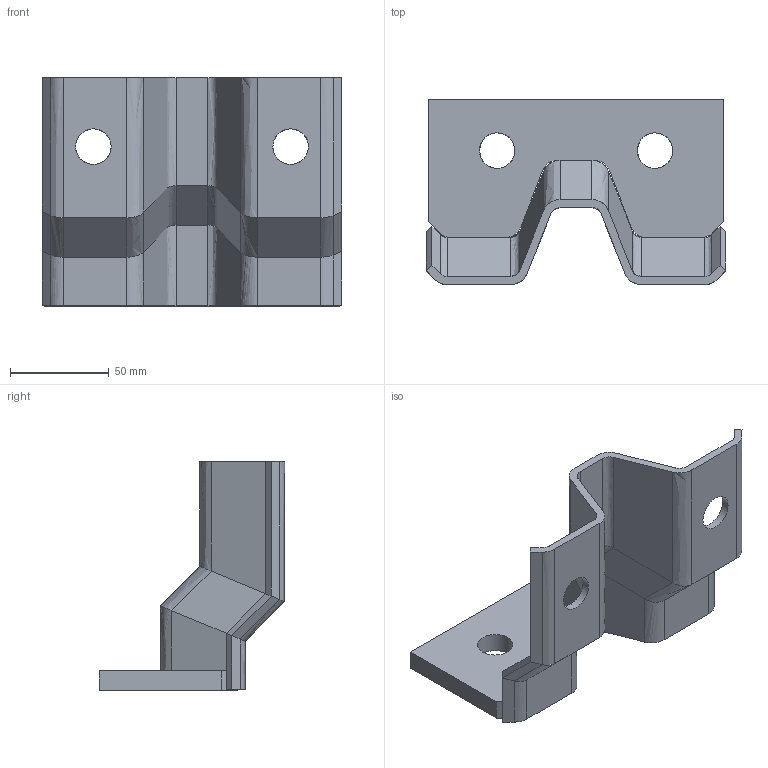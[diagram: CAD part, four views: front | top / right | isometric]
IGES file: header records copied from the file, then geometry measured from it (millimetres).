
Global section: file name: B150W80; native system: Autodesk RealDWG; preprocessor: Autodesk Translation Framework DWG producer (atf_dwg_producer); organization: unknown; date: 20230703.103150; units: centimetre
Bounding box: 151.72 x 94 x 116 mm (x, y, z)
Volume: 179584 mm3; surface area: 72878.3 mm2
Topology: 1 solids, 1 shells, 108 faces, 270 edges, 160 vertices
Faces by surface type: bspline 108
